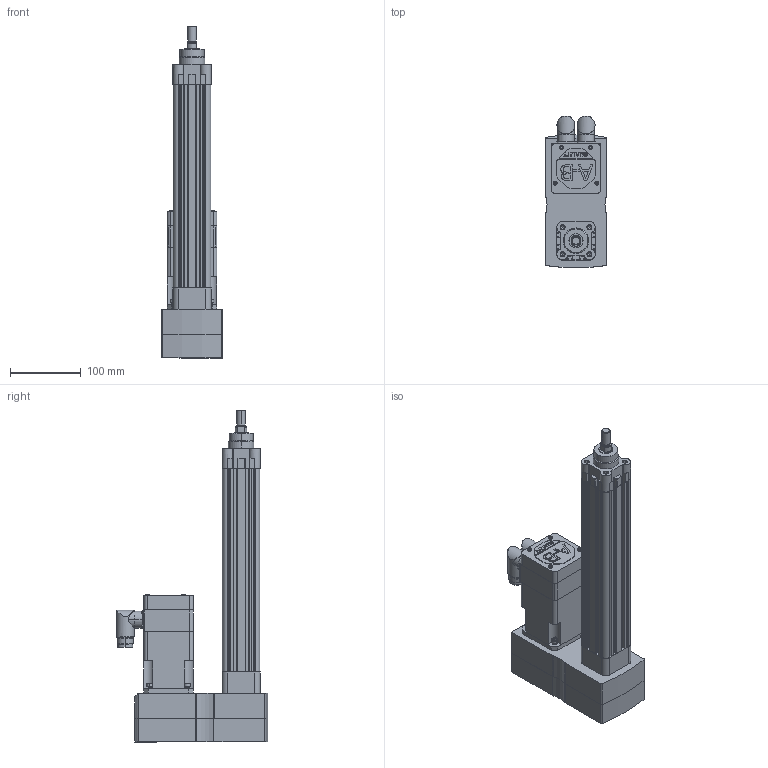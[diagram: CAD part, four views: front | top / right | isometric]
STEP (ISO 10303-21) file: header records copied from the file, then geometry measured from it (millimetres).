
FILE_DESCRIPTION (( 'STEP AP214' ), '1' );
FILE_NAME ('Rockwell Automation-$PARTNUMBER.STEP', '2014-03-13T18:49:59', ( 'Windows User' ), ( '' ), 'SwSTEP 2.0', 'SolidWorks 2014', '' );
FILE_SCHEMA (( 'AUTOMOTIVE_DESIGN' ));
Length unit declared in the file: millimetre
Products named in the file (16): Rockwell Automation-$PARTNUMBER_Rockwell Automation-MPAR-X2200F-V2B_MPL-x220x-xJ42AA_MPL-15xx-Power Connector; Rockwell Automation-$PARTNUMBER_Rockwell Automation-MPAR-X2200F-V2B_MPL-x220x-xJ42AA_MPL-2xx-Shaft-Key_220-SHAFT-KEYED; Rockwell Automation-$PARTNUMBER_Rockwell Automation-MPAR-X2200F-V2B_MPL-x220x-xJ42AA_MPL-2xx-Body_220; Rockwell Automation-$PARTNUMBER; Rockwell Automation-$PARTNUMBER_Rockwell Automation-MPAR-X2200F-V2B_MPAR-x2200x; Rockwell Automation-$PARTNUMBER_Rockwell Automation-MPAR-X2200F-V2B_2-543132; Rockwell Automation-$PARTNUMBER_Rockwell Automation-MPAR-X2200F-V2B_1-543132; Rockwell Automation-$PARTNUMBER_Rockwell Automation-MPAR-X2200F-V2B_627502; Rockwell Automation-$PARTNUMBER_Rockwell Automation-MPAR-X2200F-V2B_627502_1212826_S_ASM; Rockwell Automation-$PARTNUMBER_Rockwell Automation-MPAR-X2200F-V2B_627502_1212372; Rockwell Automation-$PARTNUMBER_Rockwell Automation-MPAR-X2200F-V2B_627502_200129_3; Rockwell Automation-$PARTNUMBER_Rockwell Automation-MPAR-X2200F-V2B_627502_200672_1; Rockwell Automation-$PARTNUMBER_Rockwell Automation-MPAR-X2200F-V2B_627502_PRT0002; Rockwell Automation-$PARTNUMBER_Rockwell Automation-MPAR-X2200F-V2B_627502_1190018; Rockwell Automation-$PARTNUMBER_Rockwell Automation-MPAR-X2200F-V2B_MPL-x220F-V-X209_MPL-x220x-xJ42AA; Rockwell Automation-$PARTNUMBER_Rockwell Automation-MPAR-X2200F-V2B_MPL-x220x-xJ42AA_MPL-15xx-Feedback Connector
Assembly tree (25 placements, depth 4):
  Rockwell Automation-$PARTNUMBER
    Rockwell Automation-$PARTNUMBER_Rockwell Automation-MPAR-X2200F-V2B_MPL-x220F-V-X209_MPL-x220x-xJ42AA
      Rockwell Automation-$PARTNUMBER_Rockwell Automation-MPAR-X2200F-V2B_MPL-x220x-xJ42AA_MPL-2xx-Body_220
      Rockwell Automation-$PARTNUMBER_Rockwell Automation-MPAR-X2200F-V2B_MPL-x220x-xJ42AA_MPL-2xx-Shaft-Key_220-SHAFT-KEYED
      Rockwell Automation-$PARTNUMBER_Rockwell Automation-MPAR-X2200F-V2B_MPL-x220x-xJ42AA_MPL-15xx-Power Connector
      Rockwell Automation-$PARTNUMBER_Rockwell Automation-MPAR-X2200F-V2B_MPL-x220x-xJ42AA_MPL-15xx-Feedback Connector
    Rockwell Automation-$PARTNUMBER_Rockwell Automation-MPAR-X2200F-V2B_627502
      Rockwell Automation-$PARTNUMBER_Rockwell Automation-MPAR-X2200F-V2B_627502_1212826_S_ASM
        Rockwell Automation-$PARTNUMBER_Rockwell Automation-MPAR-X2200F-V2B_627502_1190018
        Rockwell Automation-$PARTNUMBER_Rockwell Automation-MPAR-X2200F-V2B_627502_PRT0002  x4
        Rockwell Automation-$PARTNUMBER_Rockwell Automation-MPAR-X2200F-V2B_627502_200672_1  x4
        Rockwell Automation-$PARTNUMBER_Rockwell Automation-MPAR-X2200F-V2B_627502_200129_3  x5
        Rockwell Automation-$PARTNUMBER_Rockwell Automation-MPAR-X2200F-V2B_627502_1212372
    Rockwell Automation-$PARTNUMBER_Rockwell Automation-MPAR-X2200F-V2B_MPAR-x2200x
      Rockwell Automation-$PARTNUMBER_Rockwell Automation-MPAR-X2200F-V2B_1-543132
      Rockwell Automation-$PARTNUMBER_Rockwell Automation-MPAR-X2200F-V2B_2-543132
Bounding box: 86 x 214.21 x 469.5 mm (x, y, z)
Volume: 1979359.4 mm3; surface area: 417906.4 mm2
Topology: 25 solids, 25 shells, 1660 faces, 4024 edges, 2538 vertices
Faces by surface type: plane 664, cylinder 580, cone 254, bspline 114, torus 48
Entity records: 44671 total; most frequent: CARTESIAN_POINT 10428, DIRECTION 7247, ORIENTED_EDGE 6664, EDGE_CURVE 3332, AXIS2_PLACEMENT_3D 2728, VERTEX_POINT 2118, VECTOR 1791, LINE 1791
